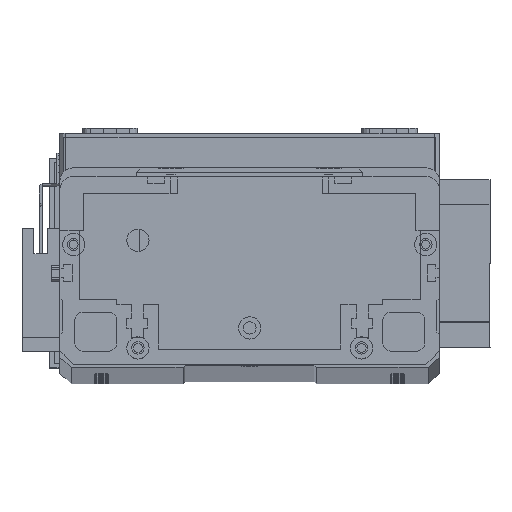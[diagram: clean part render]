
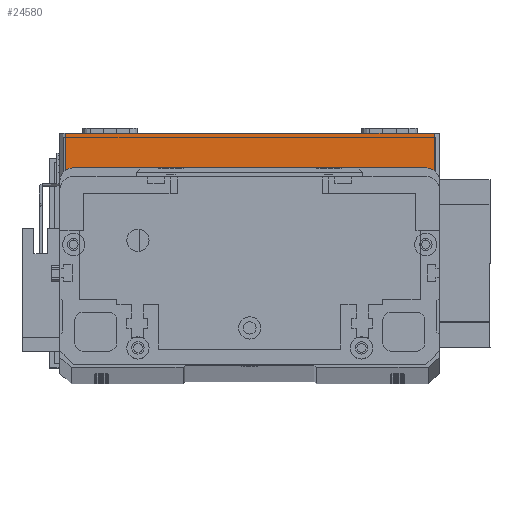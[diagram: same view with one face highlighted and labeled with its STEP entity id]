
A CAD part, top view. The second image highlights one B-rep face of the part: STEP entity #24580.
In plain terms, the highlighted planar face has unit normal (0, 0, 1) as drawn and (0, -1, 0) by its records, which use the part's own axes.
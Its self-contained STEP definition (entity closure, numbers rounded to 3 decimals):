
#329 = DIRECTION ( 'NONE',  ( 1., 0., 0. ) ) ;
#1593 = CARTESIAN_POINT ( 'NONE',  ( 0., 0., 0. ) ) ;
#1983 = VERTEX_POINT ( 'NONE', #8553 ) ;
#2124 = ORIENTED_EDGE ( 'NONE', *, *, #20931, .T. ) ;
#2312 = VECTOR ( 'NONE', #16161, 1000. ) ;
#4382 = LINE ( 'NONE', #5529, #17321 ) ;
#4955 = DIRECTION ( 'NONE',  ( 0., 0., 1. ) ) ;
#5049 = CARTESIAN_POINT ( 'NONE',  ( 0., 0., 19.5 ) ) ;
#5529 = CARTESIAN_POINT ( 'NONE',  ( 2., 0., 19.5 ) ) ;
#7501 = DIRECTION ( 'NONE',  ( 0., 0., 1. ) ) ;
#7870 = EDGE_CURVE ( 'NONE', #9473, #14584, #27370, .T. ) ;
#8148 = EDGE_CURVE ( 'NONE', #1983, #26610, #15600, .T. ) ;
#8481 = FACE_OUTER_BOUND ( 'NONE', #16030, .T. ) ;
#8553 = CARTESIAN_POINT ( 'NONE',  ( 2., 0., 19.5 ) ) ;
#9473 = VERTEX_POINT ( 'NONE', #16476 ) ;
#12183 = CARTESIAN_POINT ( 'NONE',  ( 134., 0., 19.5 ) ) ;
#13296 = VECTOR ( 'NONE', #4955, 1000. ) ;
#14584 = VERTEX_POINT ( 'NONE', #17164 ) ;
#15304 = DIRECTION ( 'NONE',  ( 0., 0., -1. ) ) ;
#15600 = LINE ( 'NONE', #29380, #19748 ) ;
#16030 = EDGE_LOOP ( 'NONE', ( #21308, #24280, #20612, #2124 ) ) ;
#16161 = DIRECTION ( 'NONE',  ( 1., 0., 0. ) ) ;
#16476 = CARTESIAN_POINT ( 'NONE',  ( 2., 0., 0. ) ) ;
#17164 = CARTESIAN_POINT ( 'NONE',  ( 134., 0., 0. ) ) ;
#17321 = VECTOR ( 'NONE', #15304, 1000. ) ;
#19576 = PLANE ( 'NONE',  #22210 ) ;
#19748 = VECTOR ( 'NONE', #329, 1000. ) ;
#20612 = ORIENTED_EDGE ( 'NONE', *, *, #7870, .T. ) ;
#20931 = EDGE_CURVE ( 'NONE', #14584, #26610, #26186, .T. ) ;
#21308 = ORIENTED_EDGE ( 'NONE', *, *, #8148, .F. ) ;
#22041 = DIRECTION ( 'NONE',  ( 0., 1., 0. ) ) ;
#22210 = AXIS2_PLACEMENT_3D ( 'NONE', #5049, #22041, #7501 ) ;
#23501 = EDGE_CURVE ( 'NONE', #1983, #9473, #4382, .T. ) ;
#24280 = ORIENTED_EDGE ( 'NONE', *, *, #23501, .T. ) ;
#24364 = CARTESIAN_POINT ( 'NONE',  ( 134., 0., 19.5 ) ) ;
#24580 = ADVANCED_FACE ( 'NONE', ( #8481 ), #19576, .F. ) ;
#26186 = LINE ( 'NONE', #24364, #13296 ) ;
#26610 = VERTEX_POINT ( 'NONE', #12183 ) ;
#27370 = LINE ( 'NONE', #1593, #2312 ) ;
#29380 = CARTESIAN_POINT ( 'NONE',  ( 0., 0., 19.5 ) ) ;
